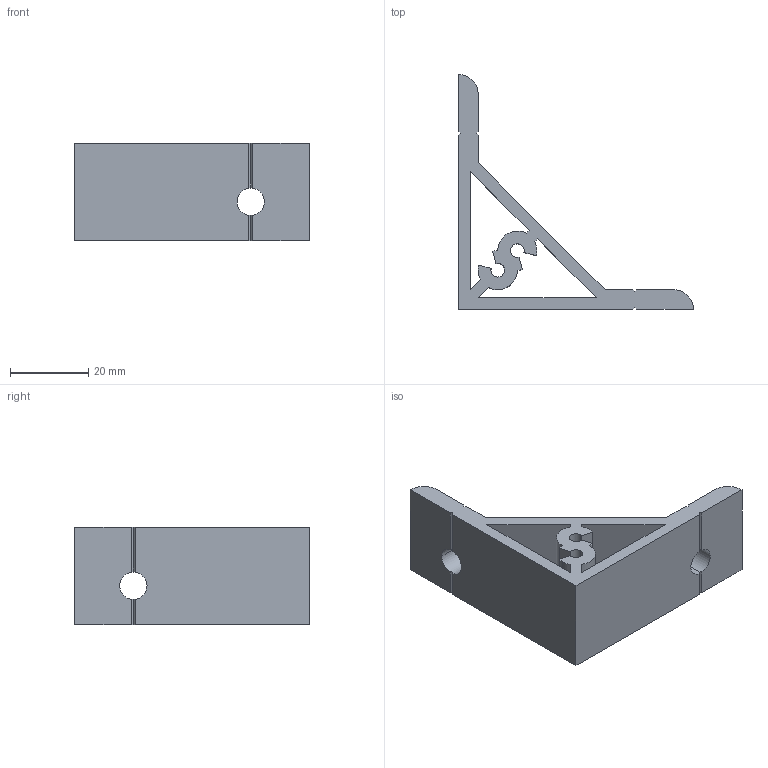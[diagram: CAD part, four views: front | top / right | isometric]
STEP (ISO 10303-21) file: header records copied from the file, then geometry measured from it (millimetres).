
FILE_DESCRIPTION (( 'STEP AP203' ), '1' );
FILE_NAME ('WL2560-6.STEP', '2024-02-17T07:21:36', ( '' ), ( '' ), 'SwSTEP 2.0', 'SolidWorks 2022', '' );
FILE_SCHEMA (( 'CONFIG_CONTROL_DESIGN' ));
Length unit declared in the file: millimetre
Products named in the file (1): WL2560-6
Bounding box: 60 x 60 x 25 mm (x, y, z)
Volume: 16796.3 mm3; surface area: 11231 mm2
Topology: 1 solids, 1 shells, 58 faces, 176 edges, 116 vertices
Faces by surface type: plane 39, cylinder 19
Entity records: 2063 total; most frequent: CARTESIAN_POINT 399, ORIENTED_EDGE 352, DIRECTION 320, EDGE_CURVE 176, VECTOR 118, LINE 118, VERTEX_POINT 116, AXIS2_PLACEMENT_3D 101
